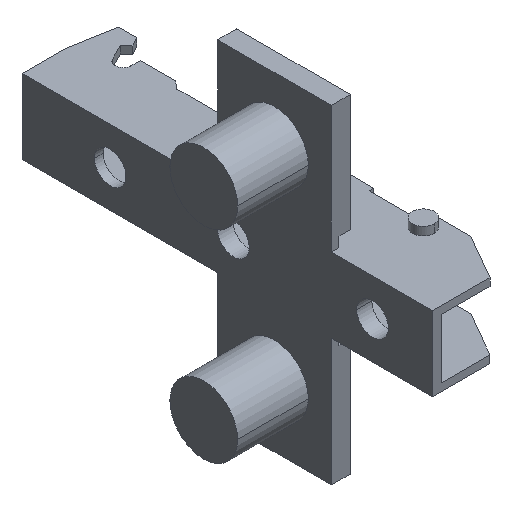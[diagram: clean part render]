
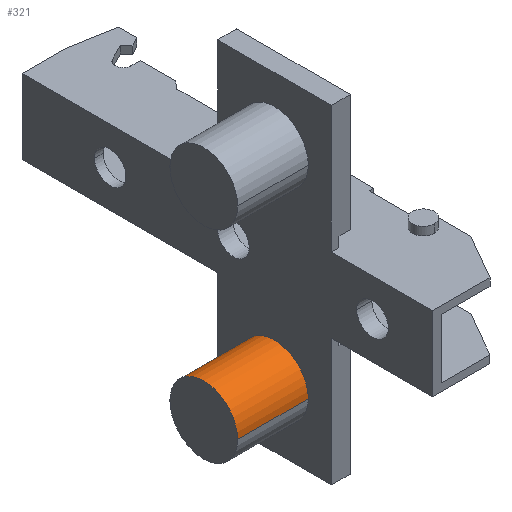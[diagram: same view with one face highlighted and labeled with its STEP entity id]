
A CAD part, isometric view. The second image highlights one B-rep face of the part: STEP entity #321.
In plain terms, the highlighted cylindrical face has radius 5.35 mm (diameter 10.7 mm), a partial arc.
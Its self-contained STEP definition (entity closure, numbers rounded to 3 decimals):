
#84 = VERTEX_POINT ( 'NONE', #217 ) ;
#122 = VERTEX_POINT ( 'NONE', #2811 ) ;
#130 = VERTEX_POINT ( 'NONE', #2831 ) ;
#180 = VERTEX_POINT ( 'NONE', #2898 ) ;
#217 = CARTESIAN_POINT ( 'NONE',  ( 0., 5.35, -16. ) ) ;
#321 = ADVANCED_FACE ( 'NONE', ( #2060 ), #2068, .T. ) ;
#390 = CIRCLE ( 'NONE', #793, 5.35 ) ;
#429 = VECTOR ( 'NONE', #2223, 1000. ) ;
#430 = LINE ( 'NONE', #2222, #429 ) ;
#757 = EDGE_CURVE ( 'NONE', #180, #84, #1802, .T. ) ;
#760 = EDGE_CURVE ( 'NONE', #122, #180, #1803, .T. ) ;
#786 = AXIS2_PLACEMENT_3D ( 'NONE', #3076, #3091, #3084 ) ;
#793 = AXIS2_PLACEMENT_3D ( 'NONE', #2193, #2316, #2317 ) ;
#871 = EDGE_CURVE ( 'NONE', #130, #84, #430, .T. ) ;
#903 = EDGE_CURVE ( 'NONE', #122, #130, #390, .T. ) ;
#1011 = AXIS2_PLACEMENT_3D ( 'NONE', #2506, #2828, #2827 ) ;
#1067 = EDGE_LOOP ( 'NONE', ( #1152, #1153, #1154, #1155 ) ) ;
#1152 = ORIENTED_EDGE ( 'NONE', *, *, #871, .F. ) ;
#1153 = ORIENTED_EDGE ( 'NONE', *, *, #903, .F. ) ;
#1154 = ORIENTED_EDGE ( 'NONE', *, *, #760, .T. ) ;
#1155 = ORIENTED_EDGE ( 'NONE', *, *, #757, .T. ) ;
#1802 = CIRCLE ( 'NONE', #1011, 5.35 ) ;
#1803 = LINE ( 'NONE', #2769, #1810 ) ;
#1810 = VECTOR ( 'NONE', #2758, 1000. ) ;
#2060 = FACE_OUTER_BOUND ( 'NONE', #1067, .T. ) ;
#2068 = CYLINDRICAL_SURFACE ( 'NONE', #786, 5.35 ) ;
#2193 = CARTESIAN_POINT ( 'NONE',  ( -11.2, 0., -16. ) ) ;
#2222 = CARTESIAN_POINT ( 'NONE',  ( -11.2, 5.35, -16. ) ) ;
#2223 = DIRECTION ( 'NONE',  ( 1., 0., 0. ) ) ;
#2316 = DIRECTION ( 'NONE',  ( -1., 0., 0. ) ) ;
#2317 = DIRECTION ( 'NONE',  ( 0., 1., 0. ) ) ;
#2506 = CARTESIAN_POINT ( 'NONE',  ( 0., 0., -16. ) ) ;
#2758 = DIRECTION ( 'NONE',  ( 1., 0., 0. ) ) ;
#2769 = CARTESIAN_POINT ( 'NONE',  ( -11.2, -5.35, -16. ) ) ;
#2811 = CARTESIAN_POINT ( 'NONE',  ( -11.2, -5.35, -16. ) ) ;
#2827 = DIRECTION ( 'NONE',  ( 0., 1., 0. ) ) ;
#2828 = DIRECTION ( 'NONE',  ( -1., 0., 0. ) ) ;
#2831 = CARTESIAN_POINT ( 'NONE',  ( -11.2, 5.35, -16. ) ) ;
#2898 = CARTESIAN_POINT ( 'NONE',  ( 0., -5.35, -16. ) ) ;
#3076 = CARTESIAN_POINT ( 'NONE',  ( -11.2, 0., -16. ) ) ;
#3084 = DIRECTION ( 'NONE',  ( 0., -1., 0. ) ) ;
#3091 = DIRECTION ( 'NONE',  ( 1., 0., 0. ) ) ;
